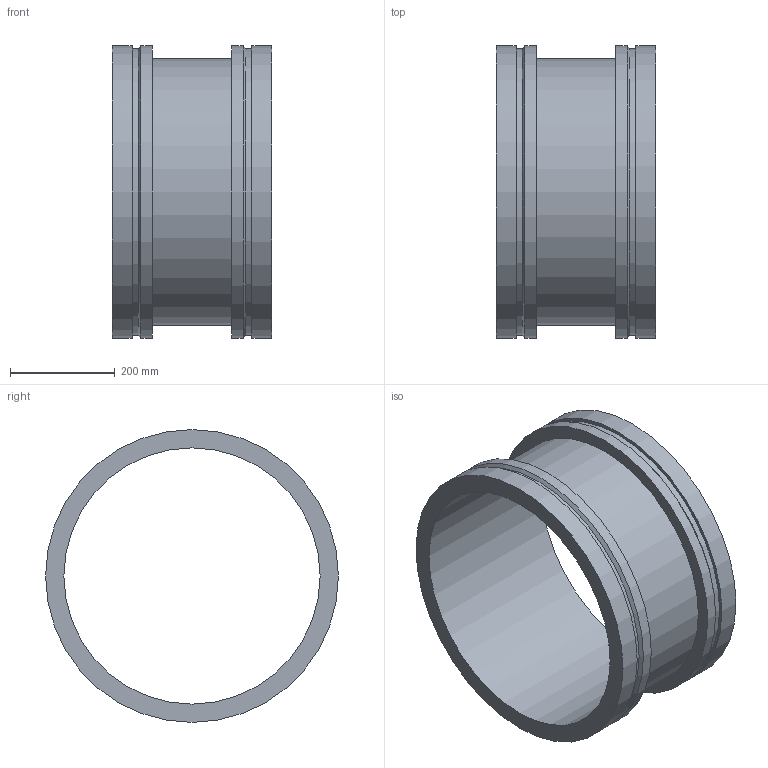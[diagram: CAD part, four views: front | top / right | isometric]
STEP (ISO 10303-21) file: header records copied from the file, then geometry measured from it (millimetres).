
FILE_DESCRIPTION(/* description */ ('VIC ADAPTER NIPPLE No W43 VR','CAx-IF Rec.Pracs.---Representation and Presentation of Product Manufacturing Information (PMI)---4.0---2014-10-13'),/* implementation_level */ '2;1');
FILE_NAME(/* name */ 'C:\Users\kkamble\AppData\Roaming\Autodesk\ApplicationPlugins\Back Up\Victaulic_Vic-Ring_Adapter Nipple_No W43 VR (AGR)\Victaulic_Vic-Ring_Adapter Nipple_No W43 VR (AGR)_20 (500).stp',/* time_stamp */ '2020-09-10T11:31:14+05:00',/* author */ ('cps_temp'),/* organization */ ('Victaulic'),/* preprocessor_version */ 'ST-DEVELOPER v17.2',/* originating_system */ 'Autodesk Inventor 2019',/* authorisation */ '');
FILE_SCHEMA (('AP242_MANAGED_MODEL_BASED_3D_ENGINEERING_MIM_LF { 1 0 10303 442 1 1 4 }'));
Length unit declared in the file: inch
Products named in the file (1): W43 VR-20.0
Bounding box: 304.8 x 558.8 x 558.8 mm (x, y, z)
Volume: 10719440.5 mm3; surface area: 1210230.2 mm2
Topology: 1 solids, 1 shells, 16 faces, 42 edges, 32 vertices
Faces by surface type: cylinder 8, plane 6, cone 2
Full cylindrical faces by diameter (mm): 488.95 x1, 508 x1, 546.1 x2, 558.8 x4
Entity records: 686 total; most frequent: DIRECTION 134, CARTESIAN_POINT 108, ORIENTED_EDGE 84, AXIS2_PLACEMENT_3D 62, EDGE_CURVE 42, CIRCLE 32, VERTEX_POINT 32, EDGE_LOOP 22
